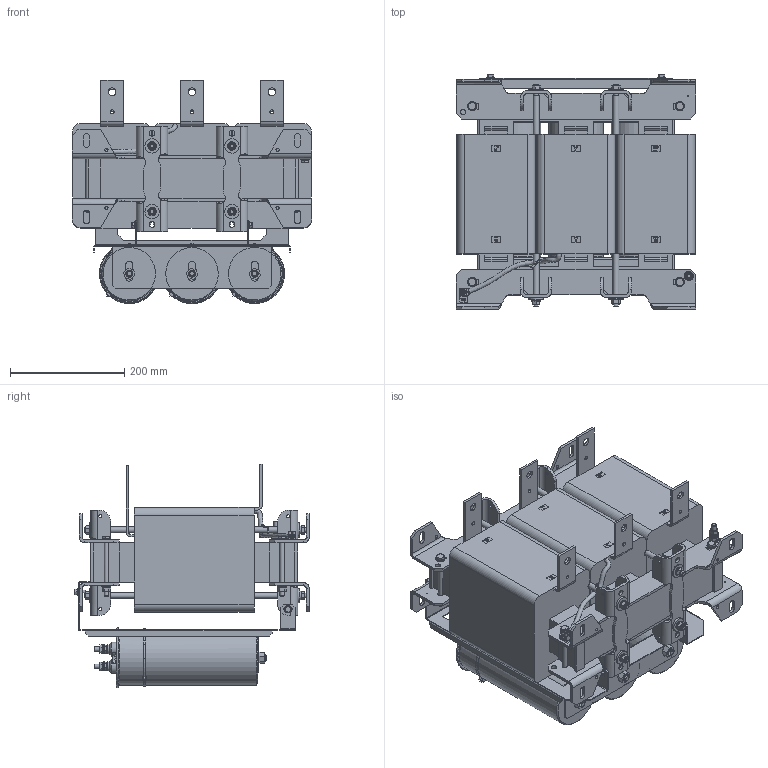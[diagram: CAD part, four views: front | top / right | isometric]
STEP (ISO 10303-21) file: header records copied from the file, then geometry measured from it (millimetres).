
FILE_DESCRIPTION(/* description */ ('raw material description'),/* implementation_level */ '2;1');
FILE_NAME(/* name */ 'C:\Users\Erika.Jenzer\Desktop\A_Neuer Ordner\FN5420-250-99-E0XXT.stp',/* time_stamp */ '2021-01-08T10:23:22+01:00',/* author */ ('erika.jenzer'),/* organization */ ('Schaffner EMV AG'),/* preprocessor_version */ 'ST-DEVELOPER v18.1',/* originating_system */ 'Autodesk Inventor 2020',/* authorisation */ '');
FILE_SCHEMA (('AUTOMOTIVE_DESIGN { 1 0 10303 214 3 1 1 }'));
Products named in the file (1): FN5420-250-99-E0XXT
Bounding box: 420 x 410.95 x 391.41 mm (x, y, z)
Volume: 25432954.4 mm3; surface area: 1618497.1 mm2
Topology: 16 solids, 22 shells, 2468 faces, 6887 edges, 4556 vertices
Faces by surface type: plane 1624, cylinder 586, cone 139, bspline 90, torus 16, sphere 13
Full cylindrical faces by diameter (mm): 0.003 x1, 1 x1, 2.013 x4, 2.5 x1, 2.8 x5, 3.4 x4, 5.5 x20, 6 x8, 6.6 x6, 8 x41, 8.2 x1, 8.4 x18, 8.6 x12, 9 x12, 9.5 x4, 10.2 x16, 10.5 x7, 11.4 x5, 11.5 x6, 12 x9, 12.5 x3, 13 x4, 13.5 x6, 16 x22, 22 x6, 24.7 x6, 25 x8, 96 x3
Entity records: 86979 total; most frequent: CARTESIAN_POINT 20496, ORIENTED_EDGE 13770, DIRECTION 12817, EDGE_CURVE 6885, VERTEX_POINT 4556, AXIS2_PLACEMENT_3D 4318, LINE 4181, VECTOR 4181
